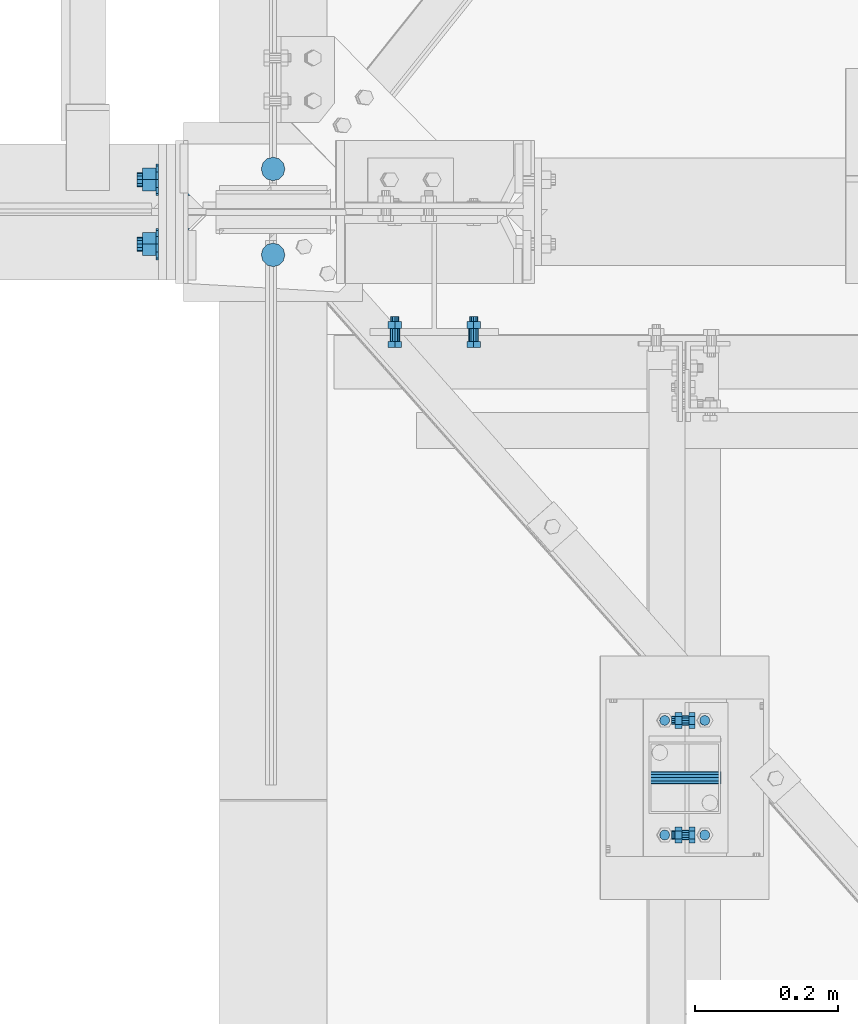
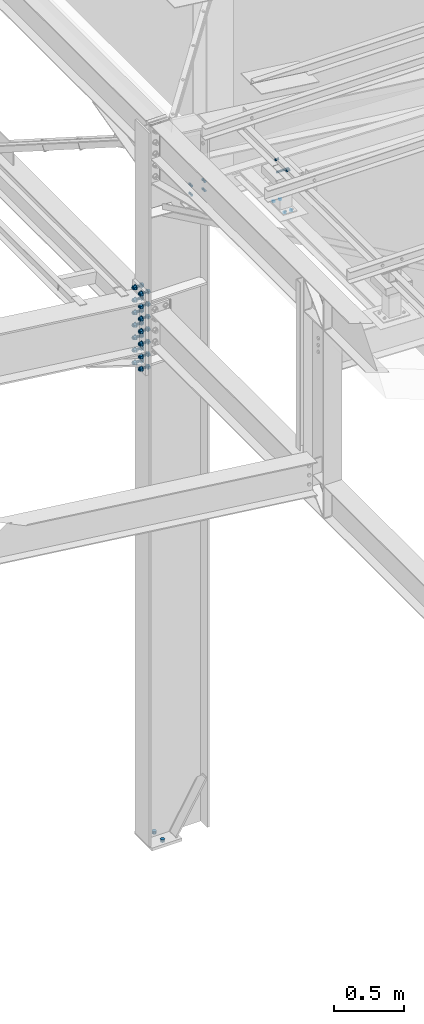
# One storey, part 356 of 3134: 6 mechanical fasteners, 5 elements without a shape of their own.
"""IFC2X3 building model written with IfcOpenShell, lengths in millimetres."""

from ifc_helpers import new_model, si_unit, frame, origin_with_axes, place, context, subcontext, project, spatial, faceted_brep, source, transform, mapped, material, type_object, element, aggregate, save


model = new_model("IFC2X3")

# Units and contexts
model_context = context("Model", 3, precision=1e-05, world=origin_with_axes())
body_context = subcontext(model_context, "Body", "Model", "MODEL_VIEW")
ifc_project = project(units=[si_unit("LENGTHUNIT", "METRE", prefix="MILLI"), si_unit("AREAUNIT", "SQUARE_METRE"), si_unit("VOLUMEUNIT", "CUBIC_METRE"), si_unit("MASSUNIT", "GRAM", prefix="KILO"), si_unit("TIMEUNIT", "SECOND"), si_unit("PLANEANGLEUNIT", "RADIAN"), si_unit("SOLIDANGLEUNIT", "STERADIAN"), si_unit("THERMODYNAMICTEMPERATUREUNIT", "DEGREE_CELSIUS"), si_unit("LUMINOUSINTENSITYUNIT", "LUMEN")], contexts=[model_context])

# Site, building, storey
site_placement = place(None, origin_with_axes())
site = spatial("IfcSite", under=ifc_project, at=site_placement, CompositionType="ELEMENT")
building_placement = place(site_placement, origin_with_axes())
building = spatial("IfcBuilding", under=site, at=building_placement, Name="Undefined", CompositionType="ELEMENT")
storey_placement = place(building_placement, origin_with_axes())
storey = spatial("IfcBuildingStorey", under=building, at=storey_placement, Name="Undefined", CompositionType="ELEMENT", Elevation=0.0)

# Assembly, mechanical fastener
assembly_1_placement = place(storey_placement, origin_with_axes())
assembly_1 = element("IfcElementAssembly", 1, at=assembly_1_placement, inside=storey, Name="IPE450", AssemblyPlace="NOTDEFINED", PredefinedType="RIGID_FRAME")
ifc_material_1 = material(Name="HR10.9")
mechanical_fastener_type = type_object("IfcMechanicalFastenerType", Name="Bolt assembly")
shared_shape_1 = source(origin_with_axes(), body_context, "Body", "Brep", [
    faceted_brep([(18.475208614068, -33.599999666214, 0.0), (9.23760430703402, -33.599999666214, 16.0), (-9.23760430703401, -33.599999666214, 16.0), (-18.475208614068, -33.599999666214, 2.2625605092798e-15), (-9.23760430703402, -33.599999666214, -16.0), (9.237604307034, -33.599999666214, -16.0), (9.237604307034, -19.7000000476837, -16.0), (-9.23760430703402, -19.7000000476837, -16.0), (-18.475208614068, -19.7000000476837, 2.2625605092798e-15), (-9.23760430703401, -19.7000000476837, 16.0), (9.23760430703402, -19.7000000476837, 16.0), (18.475208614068, -19.7000000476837, 0.0), (10.0, -19.7000000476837, 0.0), (8.66025403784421, -19.7000000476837, 5.0000000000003), (4.9999999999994, -19.7000000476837, 8.66025403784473), (-1.03633598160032e-12, -19.7000000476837, 10.0), (-5.00000000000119, -19.7000000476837, 8.6602540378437), (-8.66025403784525, -19.7000000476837, 4.99999999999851), (-10.0, -19.7000000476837, -2.07267196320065e-12), (-8.66025403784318, -19.7000000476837, -5.00000000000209), (-4.99999999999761, -19.7000000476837, -8.66025403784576), (3.09790571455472e-12, -19.7000000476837, -10.0), (5.00000000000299, -19.7000000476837, -8.66025403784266), (8.66025403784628, -19.7000000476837, -4.99999999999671), (8.66025403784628, 55.2999999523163, -4.99999999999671), (5.00000000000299, 55.2999999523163, -8.66025403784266), (3.09790571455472e-12, 55.2999999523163, -10.0), (-4.99999999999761, 55.2999999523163, -8.66025403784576), (-8.66025403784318, 55.2999999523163, -5.00000000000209), (-10.0, 55.2999999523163, -2.07267196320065e-12), (-8.66025403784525, 55.2999999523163, 4.99999999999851), (-5.00000000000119, 55.2999999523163, 8.6602540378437), (-1.03633598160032e-12, 55.2999999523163, 10.0), (4.9999999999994, 55.2999999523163, 8.66025403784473), (8.66025403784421, 55.2999999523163, 5.0000000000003), (10.0, 55.2999999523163, 0.0), (22.0, -19.7000000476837, 0.0), (19.0525588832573, -19.7000000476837, 11.0000000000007), (10.9999999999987, -19.7000000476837, 19.0525588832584), (-2.27993915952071e-12, -19.7000000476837, 22.0), (-11.0000000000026, -19.7000000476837, 19.0525588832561), (-19.0525588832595, -19.7000000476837, 10.9999999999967), (-22.0, -19.7000000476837, -4.55987831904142e-12), (-19.052558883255, -19.7000000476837, -11.0000000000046), (-10.9999999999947, -19.7000000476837, -19.0525588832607), (6.81539257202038e-12, -19.7000000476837, -22.0), (11.0000000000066, -19.7000000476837, -19.0525588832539), (19.0525588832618, -19.7000000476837, -10.9999999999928), (19.0525588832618, -16.0, -10.9999999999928), (11.0000000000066, -16.0, -19.0525588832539), (6.81539257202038e-12, -16.0, -22.0), (-10.9999999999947, -16.0, -19.0525588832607), (-19.052558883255, -16.0, -11.0000000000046), (-22.0, -16.0, -4.55987831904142e-12), (-19.0525588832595, -16.0, 10.9999999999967), (-11.0000000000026, -16.0, 19.0525588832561), (-2.27993915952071e-12, -16.0, 22.0), (10.9999999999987, -16.0, 19.0525588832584), (19.0525588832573, -16.0, 11.0000000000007), (22.0, -16.0, 0.0), (22.0, 25.0, 0.0), (19.0525588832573, 25.0, 11.0000000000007), (10.9999999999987, 25.0, 19.0525588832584), (-2.27993915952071e-12, 25.0, 22.0), (-11.0000000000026, 25.0, 19.0525588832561), (-19.0525588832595, 25.0, 10.9999999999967), (-22.0, 25.0, -4.55987831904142e-12), (-19.052558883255, 25.0, -11.0000000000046), (-10.9999999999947, 25.0, -19.0525588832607), (6.81539257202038e-12, 25.0, -22.0), (11.0000000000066, 25.0, -19.0525588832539), (19.0525588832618, 25.0, -10.9999999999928), (19.0525588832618, 28.7000000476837, -10.9999999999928), (11.0000000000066, 28.7000000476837, -19.0525588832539), (6.81539257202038e-12, 28.7000000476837, -22.0), (-10.9999999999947, 28.7000000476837, -19.0525588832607), (-19.052558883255, 28.7000000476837, -11.0000000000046), (-22.0, 28.7000000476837, -4.55987831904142e-12), (-19.0525588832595, 28.7000000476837, 10.9999999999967), (-11.0000000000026, 28.7000000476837, 19.0525588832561), (-2.27993915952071e-12, 28.7000000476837, 22.0), (10.9999999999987, 28.7000000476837, 19.0525588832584), (19.0525588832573, 28.7000000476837, 11.0000000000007), (22.0, 28.7000000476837, 0.0), (18.475208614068, 28.7000000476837, 0.0), (9.23760430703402, 28.7000000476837, 16.0), (-9.23760430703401, 28.7000000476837, 16.0), (-18.475208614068, 28.7000000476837, 2.2625605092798e-15), (-9.23760430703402, 28.7000000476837, -16.0), (9.237604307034, 28.7000000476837, -16.0), (9.237604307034, 47.2499992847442, -16.0), (-9.23760430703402, 47.2499992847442, -16.0), (-18.475208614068, 47.2499992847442, 2.2625605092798e-15), (-9.23760430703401, 47.2499992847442, 16.0), (9.23760430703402, 47.2499992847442, 16.0), (18.475208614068, 47.2499992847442, 0.0)], [[[0, 1, 2, 3, 4, 5]], [[6, 7, 8, 9, 10, 11]], [[0, 11, 10, 1]], [[1, 10, 9, 2]], [[2, 9, 8, 3]], [[3, 8, 7, 4]], [[4, 7, 6, 5]], [[5, 6, 11, 0]], [[12, 13, 14, 15, 16, 17, 18, 19, 20, 21, 22, 23]], [[24, 25, 26, 27, 28, 29, 30, 31, 32, 33, 34, 35]], [[12, 35, 34, 13]], [[13, 34, 33, 14]], [[14, 33, 32, 15]], [[15, 32, 31, 16]], [[16, 31, 30, 17]], [[17, 30, 29, 18]], [[18, 29, 28, 19]], [[19, 28, 27, 20]], [[20, 27, 26, 21]], [[21, 26, 25, 22]], [[22, 25, 24, 23]], [[23, 24, 35, 12]], [[36, 37, 38, 39, 40, 41, 42, 43, 44, 45, 46, 47]], [[48, 49, 50, 51, 52, 53, 54, 55, 56, 57, 58, 59]], [[36, 59, 58, 37]], [[37, 58, 57, 38]], [[38, 57, 56, 39]], [[39, 56, 55, 40]], [[40, 55, 54, 41]], [[41, 54, 53, 42]], [[42, 53, 52, 43]], [[43, 52, 51, 44]], [[44, 51, 50, 45]], [[45, 50, 49, 46]], [[46, 49, 48, 47]], [[47, 48, 59, 36]], [[60, 61, 62, 63, 64, 65, 66, 67, 68, 69, 70, 71]], [[72, 73, 74, 75, 76, 77, 78, 79, 80, 81, 82, 83]], [[60, 83, 82, 61]], [[61, 82, 81, 62]], [[62, 81, 80, 63]], [[63, 80, 79, 64]], [[64, 79, 78, 65]], [[65, 78, 77, 66]], [[66, 77, 76, 67]], [[67, 76, 75, 68]], [[68, 75, 74, 69]], [[69, 74, 73, 70]], [[70, 73, 72, 71]], [[71, 72, 83, 60]], [[84, 85, 86, 87, 88, 89]], [[90, 91, 92, 93, 94, 95]], [[84, 95, 94, 85]], [[85, 94, 93, 86]], [[86, 93, 92, 87]], [[87, 92, 91, 88]], [[88, 91, 90, 89]], [[89, 90, 95, 84]]]),
    faceted_brep([(11.0, -15.9, 0.0), (9.52627944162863, -15.9, 5.50000000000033), (5.49999999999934, -15.9, 9.5262794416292), (-1.13996957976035e-12, -15.9, 11.0), (-5.50000000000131, -15.9, 9.52627944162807), (-9.52627944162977, -15.9, 5.49999999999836), (-11.0, -15.9, -2.27993915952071e-12), (-9.5262794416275, -15.9, -5.5000000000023), (-5.49999999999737, -15.9, -9.52627944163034), (3.40769628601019e-12, -15.9, -11.0), (5.50000000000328, -15.9, -9.52627944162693), (9.52627944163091, -15.9, -5.49999999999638), (9.52627944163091, 0.0999999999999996, -5.49999999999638), (5.50000000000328, 0.0999999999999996, -9.52627944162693), (3.40769628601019e-12, 0.0999999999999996, -11.0), (-5.49999999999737, 0.0999999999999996, -9.52627944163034), (-9.5262794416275, 0.0999999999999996, -5.5000000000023), (-11.0, 0.0999999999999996, -2.27993915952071e-12), (-9.52627944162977, 0.0999999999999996, 5.49999999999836), (-5.50000000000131, 0.0999999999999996, 9.52627944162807), (-1.13996957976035e-12, 0.0999999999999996, 11.0), (5.49999999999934, 0.0999999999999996, 9.5262794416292), (9.52627944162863, 0.0999999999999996, 5.50000000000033), (11.0, 0.0999999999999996, 0.0), (11.0, -0.1, 0.0), (9.52627944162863, -0.1, 5.50000000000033), (5.49999999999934, -0.1, 9.5262794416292), (-1.13996957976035e-12, -0.1, 11.0), (-5.50000000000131, -0.1, 9.52627944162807), (-9.52627944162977, -0.1, 5.49999999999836), (-11.0, -0.1, -2.27993915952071e-12), (-9.5262794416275, -0.1, -5.5000000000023), (-5.49999999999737, -0.1, -9.52627944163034), (3.40769628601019e-12, -0.1, -11.0), (5.50000000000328, -0.1, -9.52627944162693), (9.52627944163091, -0.1, -5.49999999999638), (9.52627944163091, 25.0, -5.49999999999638), (5.50000000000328, 25.0, -9.52627944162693), (3.40769628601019e-12, 25.0, -11.0), (-5.49999999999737, 25.0, -9.52627944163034), (-9.5262794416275, 25.0, -5.5000000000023), (-11.0, 25.0, -2.27993915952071e-12), (-9.52627944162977, 25.0, 5.49999999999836), (-5.50000000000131, 25.0, 9.52627944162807), (-1.13996957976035e-12, 25.0, 11.0), (5.49999999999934, 25.0, 9.5262794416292), (9.52627944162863, 25.0, 5.50000000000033), (11.0, 25.0, 0.0)], [[[0, 1, 2, 3, 4, 5, 6, 7, 8, 9, 10, 11]], [[12, 13, 14, 15, 16, 17, 18, 19, 20, 21, 22, 23]], [[0, 23, 22, 1]], [[1, 22, 21, 2]], [[2, 21, 20, 3]], [[3, 20, 19, 4]], [[4, 19, 18, 5]], [[5, 18, 17, 6]], [[6, 17, 16, 7]], [[7, 16, 15, 8]], [[8, 15, 14, 9]], [[9, 14, 13, 10]], [[10, 13, 12, 11]], [[11, 12, 23, 0]], [[24, 25, 26, 27, 28, 29, 30, 31, 32, 33, 34, 35]], [[36, 37, 38, 39, 40, 41, 42, 43, 44, 45, 46, 47]], [[24, 47, 46, 25]], [[25, 46, 45, 26]], [[26, 45, 44, 27]], [[27, 44, 43, 28]], [[28, 43, 42, 29]], [[29, 42, 41, 30]], [[30, 41, 40, 31]], [[31, 40, 39, 32]], [[32, 39, 38, 33]], [[33, 38, 37, 34]], [[34, 37, 36, 35]], [[35, 36, 47, 24]]]),
])
mechanical_fastener_1_placement = place(assembly_1_placement, frame((67415.0, 19450.0, 4461.54211857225), z_axis=(0.0, 1.0, 0.0), x_axis=(0.0, 0.0, -1.0)))
mechanical_fastener_1 = element("IfcMechanicalFastener", 2, at=mechanical_fastener_1_placement, type_object=mechanical_fastener_type, material=ifc_material_1, Name="Bolt assembly", NominalDiameter=20.0, NominalLength=75.0, context=body_context, shape_type="MappedRepresentation", body=[
    mapped(shared_shape_1, transform((0.0, 0.0, -45.0))),
    mapped(shared_shape_1, transform((0.0, 0.0, 45.0))),
    mapped(shared_shape_1, transform((110.0, 0.0, -45.0))),
    mapped(shared_shape_1, transform((110.0, 0.0, 45.0))),
    mapped(shared_shape_1, transform((220.0, 0.0, -45.0))),
    mapped(shared_shape_1, transform((220.0, 0.0, 45.0))),
    mapped(shared_shape_1, transform((330.0, 0.0, -45.0))),
    mapped(shared_shape_1, transform((330.0, 0.0, 45.0))),
    mapped(shared_shape_1, transform((440.0, 0.0, -45.0))),
    mapped(shared_shape_1, transform((440.0, 0.0, 45.0))),
    mapped(shared_shape_1, transform((550.0, 0.0, -45.0))),
    mapped(shared_shape_1, transform((550.0, 0.0, 45.0))),
    mapped(shared_shape_1, transform((660.0, 0.0, -45.0))),
    mapped(shared_shape_1, transform((660.0, 0.0, 45.0))),
])
aggregate(assembly_1, [mechanical_fastener_1])

assembly_2_placement = place(storey_placement, origin_with_axes())
assembly_2 = element("IfcElementAssembly", 3, at=assembly_2_placement, inside=storey, AssemblyPlace="NOTDEFINED", PredefinedType="RIGID_FRAME")
ifc_material_2 = material(Name="8.8")
shared_shape_2 = source(origin_with_axes(), body_context, "Body", "Brep", [
    faceted_brep([(10.9696551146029, -14.0, 0.0), (5.48482755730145, -14.0, 9.5), (-5.48482755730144, -14.0, 9.5), (-10.9696551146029, -14.0, 1.34339530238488e-15), (-5.48482755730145, -14.0, -9.5), (5.48482755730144, -14.0, -9.50000000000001), (5.48482755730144, -6.0, -9.50000000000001), (-5.48482755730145, -6.0, -9.5), (-10.9696551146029, -6.0, 1.34339530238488e-15), (-5.48482755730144, -6.0, 9.5), (5.48482755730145, -6.0, 9.5), (10.9696551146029, -6.0, 0.0), (6.0, -6.0, 0.0), (5.19615242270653, -6.0, 3.00000000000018), (2.99999999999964, -6.0, 5.19615242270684), (-6.21801588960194e-13, -6.0, 6.0), (-3.00000000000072, -6.0, 5.19615242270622), (-5.19615242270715, -6.0, 2.9999999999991), (-6.0, -6.0, -1.24360317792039e-12), (-5.19615242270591, -6.0, -3.00000000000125), (-2.99999999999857, -6.0, -5.19615242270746), (1.85874342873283e-12, -6.0, -6.0), (3.00000000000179, -6.0, -5.1961524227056), (5.19615242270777, -6.0, -2.99999999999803), (5.19615242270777, 19.0, -2.99999999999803), (3.00000000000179, 19.0, -5.1961524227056), (1.85874342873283e-12, 19.0, -6.0), (-2.99999999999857, 19.0, -5.19615242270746), (-5.19615242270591, 19.0, -3.00000000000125), (-6.0, 19.0, -1.24360317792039e-12), (-5.19615242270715, 19.0, 2.9999999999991), (-3.00000000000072, 19.0, 5.19615242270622), (-6.21801588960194e-13, 19.0, 6.0), (2.99999999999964, 19.0, 5.19615242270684), (5.19615242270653, 19.0, 3.00000000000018), (6.0, 19.0, 0.0), (10.9696551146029, 4.00000000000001, 0.0), (5.48482755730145, 4.00000000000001, 9.5), (-5.48482755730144, 4.00000000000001, 9.5), (-10.9696551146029, 4.00000000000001, 1.34339530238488e-15), (-5.48482755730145, 4.00000000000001, -9.5), (5.48482755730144, 4.00000000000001, -9.50000000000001), (5.48482755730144, 14.0, -9.50000000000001), (-5.48482755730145, 14.0, -9.5), (-10.9696551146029, 14.0, 1.34339530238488e-15), (-5.48482755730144, 14.0, 9.5), (5.48482755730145, 14.0, 9.5), (10.9696551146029, 14.0, 0.0)], [[[0, 1, 2, 3, 4, 5]], [[6, 7, 8, 9, 10, 11]], [[0, 11, 10, 1]], [[1, 10, 9, 2]], [[2, 9, 8, 3]], [[3, 8, 7, 4]], [[4, 7, 6, 5]], [[5, 6, 11, 0]], [[12, 13, 14, 15, 16, 17, 18, 19, 20, 21, 22, 23]], [[24, 25, 26, 27, 28, 29, 30, 31, 32, 33, 34, 35]], [[12, 35, 34, 13]], [[13, 34, 33, 14]], [[14, 33, 32, 15]], [[15, 32, 31, 16]], [[16, 31, 30, 17]], [[17, 30, 29, 18]], [[18, 29, 28, 19]], [[19, 28, 27, 20]], [[20, 27, 26, 21]], [[21, 26, 25, 22]], [[22, 25, 24, 23]], [[23, 24, 35, 12]], [[36, 37, 38, 39, 40, 41]], [[42, 43, 44, 45, 46, 47]], [[36, 47, 46, 37]], [[37, 46, 45, 38]], [[38, 45, 44, 39]], [[39, 44, 43, 40]], [[40, 43, 42, 41]], [[41, 42, 47, 36]]]),
    faceted_brep([(7.0, -0.1, 0.0), (6.06217782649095, -0.1, 3.50000000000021), (3.49999999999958, -0.1, 6.06217782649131), (-7.25435187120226e-13, -0.1, 7.0), (-3.50000000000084, -0.1, 6.06217782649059), (-6.06217782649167, -0.1, 3.49999999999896), (-7.0, -0.1, -1.45087037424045e-12), (-6.06217782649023, -0.1, -3.50000000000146), (-3.49999999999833, -0.1, -6.06217782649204), (2.1685340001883e-12, -0.1, -7.0), (3.50000000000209, -0.1, -6.06217782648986), (6.0621778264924, -0.1, -3.4999999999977), (6.0621778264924, 4.00000000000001, -3.4999999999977), (3.50000000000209, 4.00000000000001, -6.06217782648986), (2.1685340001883e-12, 4.00000000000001, -7.0), (-3.49999999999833, 4.00000000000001, -6.06217782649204), (-6.06217782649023, 4.00000000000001, -3.50000000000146), (-7.0, 4.00000000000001, -1.45087037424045e-12), (-6.06217782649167, 4.00000000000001, 3.49999999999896), (-3.50000000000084, 4.00000000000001, 6.06217782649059), (-7.25435187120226e-13, 4.00000000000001, 7.0), (3.49999999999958, 4.00000000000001, 6.06217782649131), (6.06217782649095, 4.00000000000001, 3.50000000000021), (7.0, 4.00000000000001, 0.0), (7.0, -5.9, 0.0), (6.06217782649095, -5.9, 3.50000000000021), (3.49999999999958, -5.9, 6.06217782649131), (-7.25435187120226e-13, -5.9, 7.0), (-3.50000000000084, -5.9, 6.06217782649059), (-6.06217782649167, -5.9, 3.49999999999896), (-7.0, -5.9, -1.45087037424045e-12), (-6.06217782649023, -5.9, -3.50000000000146), (-3.49999999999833, -5.9, -6.06217782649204), (2.1685340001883e-12, -5.9, -7.0), (3.50000000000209, -5.9, -6.06217782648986), (6.0621778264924, -5.9, -3.4999999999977), (6.0621778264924, 0.0999999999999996, -3.4999999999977), (3.50000000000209, 0.0999999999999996, -6.06217782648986), (2.1685340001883e-12, 0.0999999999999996, -7.0), (-3.49999999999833, 0.0999999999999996, -6.06217782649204), (-6.06217782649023, 0.0999999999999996, -3.50000000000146), (-7.0, 0.0999999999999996, -1.45087037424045e-12), (-6.06217782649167, 0.0999999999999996, 3.49999999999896), (-3.50000000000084, 0.0999999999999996, 6.06217782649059), (-7.25435187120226e-13, 0.0999999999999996, 7.0), (3.49999999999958, 0.0999999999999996, 6.06217782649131), (6.06217782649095, 0.0999999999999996, 3.50000000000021), (7.0, 0.0999999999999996, 0.0)], [[[0, 1, 2, 3, 4, 5, 6, 7, 8, 9, 10, 11]], [[12, 13, 14, 15, 16, 17, 18, 19, 20, 21, 22, 23]], [[0, 23, 22, 1]], [[1, 22, 21, 2]], [[2, 21, 20, 3]], [[3, 20, 19, 4]], [[4, 19, 18, 5]], [[5, 18, 17, 6]], [[6, 17, 16, 7]], [[7, 16, 15, 8]], [[8, 15, 14, 9]], [[9, 14, 13, 10]], [[10, 13, 12, 11]], [[11, 12, 23, 0]], [[24, 25, 26, 27, 28, 29, 30, 31, 32, 33, 34, 35]], [[36, 37, 38, 39, 40, 41, 42, 43, 44, 45, 46, 47]], [[24, 47, 46, 25]], [[25, 46, 45, 26]], [[26, 45, 44, 27]], [[27, 44, 43, 28]], [[28, 43, 42, 29]], [[29, 42, 41, 30]], [[30, 41, 40, 31]], [[31, 40, 39, 32]], [[32, 39, 38, 33]], [[33, 38, 37, 34]], [[34, 37, 36, 35]], [[35, 36, 47, 24]]]),
])
mechanical_fastener_2_placement = place(assembly_2_placement, frame((68125.0, 18580.0, 5785.0), z_axis=(0.0, 0.0, 1.0), x_axis=(0.0, 1.0, 0.0)))
mechanical_fastener_2 = element("IfcMechanicalFastener", 4, at=mechanical_fastener_2_placement, type_object=mechanical_fastener_type, material=ifc_material_2, Name="Bolt assembly", NominalDiameter=12.0, NominalLength=25.0, context=body_context, shape_type="MappedRepresentation", body=[
    mapped(shared_shape_2, transform((0.0, 0.0, 0.0))),
    mapped(shared_shape_2, transform((160.0, 0.0, 0.0))),
])

assembly_3_placement = place(storey_placement, origin_with_axes())
assembly_3 = element("IfcElementAssembly", 5, at=assembly_3_placement, inside=storey, AssemblyPlace="NOTDEFINED", PredefinedType="RIGID_FRAME")
shared_shape_3 = source(origin_with_axes(), body_context, "Body", "Brep", [
    faceted_brep([(7.0, 13.0000253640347, 0.0), (6.06217782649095, 13.0000253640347, 3.50000000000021), (3.49999999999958, 13.0000253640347, 6.06217782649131), (-7.25435187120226e-13, 13.0000253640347, 7.0), (-3.50000000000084, 13.0000253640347, 6.06217782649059), (-6.06217782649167, 13.0000253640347, 3.49999999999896), (-7.0, 13.0000253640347, -1.45087037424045e-12), (-6.06217782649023, 13.0000253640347, -3.50000000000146), (-3.49999999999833, 13.0000253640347, -6.06217782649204), (2.1685340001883e-12, 13.0000253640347, -7.0), (3.50000000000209, 13.0000253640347, -6.06217782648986), (6.0621778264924, 13.0000253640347, -3.4999999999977), (6.0621778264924, 15.0999999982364, -3.4999999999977), (3.50000000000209, 15.0999999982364, -6.06217782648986), (2.1685340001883e-12, 15.0999999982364, -7.0), (-3.49999999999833, 15.0999999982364, -6.06217782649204), (-6.06217782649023, 15.0999999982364, -3.50000000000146), (-7.0, 15.0999999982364, -1.45087037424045e-12), (-6.06217782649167, 15.0999999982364, 3.49999999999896), (-3.50000000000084, 15.0999999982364, 6.06217782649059), (-7.25435187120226e-13, 15.0999999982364, 7.0), (3.49999999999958, 15.0999999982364, 6.06217782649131), (6.06217782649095, 15.0999999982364, 3.50000000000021), (7.0, 15.0999999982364, 0.0)], [[[0, 1, 2, 3, 4, 5, 6, 7, 8, 9, 10, 11]], [[12, 13, 14, 15, 16, 17, 18, 19, 20, 21, 22, 23]], [[0, 23, 22, 1]], [[1, 22, 21, 2]], [[2, 21, 20, 3]], [[3, 20, 19, 4]], [[4, 19, 18, 5]], [[5, 18, 17, 6]], [[6, 17, 16, 7]], [[7, 16, 15, 8]], [[8, 15, 14, 9]], [[9, 14, 13, 10]], [[10, 13, 12, 11]], [[11, 12, 23, 0]]]),
])
mechanical_fastener_3_placement = place(assembly_3_placement, frame((68096.3602034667, 18659.9983647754, 5410.04493090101), z_axis=(0.0, -1.0, 0.0), x_axis=(0.999519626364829, 0.0, -0.030992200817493)))
mechanical_fastener_3 = element("IfcMechanicalFastener", 6, at=mechanical_fastener_3_placement, type_object=mechanical_fastener_type, material=ifc_material_2, Name="Bolt assembly", NominalDiameter=12.0, NominalLength=2.0, context=body_context, shape_type="MappedRepresentation", body=[
    mapped(shared_shape_3, transform((0.0, -5.32963895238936e-10, -79.9999999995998))),
    mapped(shared_shape_3, transform((55.9999999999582, 4.54747350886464e-13, -80.0))),
    mapped(shared_shape_3, transform((0.0, 5.3114490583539e-10, 79.9999999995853))),
    mapped(shared_shape_3, transform((55.9999999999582, 4.54747350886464e-13, 80.0))),
])
aggregate(assembly_3, [mechanical_fastener_3])

# Mechanical fastener
shared_shape_4 = source(origin_with_axes(), body_context, "Body", "Brep", [
    faceted_brep([(9.0, -50.0, 0.0), (7.79422863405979, -50.0, 4.50000000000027), (4.49999999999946, -50.0, 7.79422863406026), (-9.3270238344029e-13, -50.0, 9.0), (-4.50000000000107, -50.0, 7.79422863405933), (-7.79422863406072, -50.0, 4.49999999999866), (-9.0, -50.0, -1.86540476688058e-12), (-7.79422863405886, -50.0, -4.50000000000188), (-4.49999999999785, -50.0, -7.79422863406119), (2.78811514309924e-12, -50.0, -9.0), (4.50000000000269, -50.0, -7.7942286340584), (7.79422863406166, -50.0, -4.49999999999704), (7.79422863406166, 50.1, -4.49999999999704), (4.50000000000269, 50.1, -7.7942286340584), (2.78811514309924e-12, 50.1, -9.0), (-4.49999999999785, 50.1, -7.79422863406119), (-7.79422863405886, 50.1, -4.50000000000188), (-9.0, 50.1, -1.86540476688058e-12), (-7.79422863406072, 50.1, 4.49999999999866), (-4.50000000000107, 50.1, 7.79422863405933), (-9.3270238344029e-13, 50.1, 9.0), (4.49999999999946, 50.1, 7.79422863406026), (7.79422863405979, 50.1, 4.50000000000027), (9.0, 50.1, 0.0)], [[[0, 1, 2, 3, 4, 5, 6, 7, 8, 9, 10, 11]], [[12, 13, 14, 15, 16, 17, 18, 19, 20, 21, 22, 23]], [[0, 23, 22, 1]], [[1, 22, 21, 2]], [[2, 21, 20, 3]], [[3, 20, 19, 4]], [[4, 19, 18, 5]], [[5, 18, 17, 6]], [[6, 17, 16, 7]], [[7, 16, 15, 8]], [[8, 15, 14, 9]], [[9, 14, 13, 10]], [[10, 13, 12, 11]], [[11, 12, 23, 0]]]),
])
mechanical_fastener_4_placement = place(assembly_2_placement, frame((68125.0, 18660.0, 5736.0), z_axis=(0.0, 1.0, 0.0), x_axis=(0.0, 0.0, 1.0)))
mechanical_fastener_4 = element("IfcMechanicalFastener", 7, at=mechanical_fastener_4_placement, type_object=mechanical_fastener_type, material=ifc_material_2, Name="Bolt assembly", NominalDiameter=16.0, NominalLength=100.0, context=body_context, shape_type="MappedRepresentation", body=[
    mapped(shared_shape_4, transform((0.0, 0.0, 0.0))),
])

aggregate(assembly_2, [mechanical_fastener_4, mechanical_fastener_2])

# Assembly, mechanical fastener
assembly_4_placement = place(storey_placement, origin_with_axes())
assembly_4 = element("IfcElementAssembly", 8, at=assembly_4_placement, inside=storey, Name="UPN200", AssemblyPlace="NOTDEFINED", PredefinedType="RIGID_FRAME")
shared_shape_5 = source(origin_with_axes(), body_context, "Body", "Brep", [
    faceted_brep([(10.9696551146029, -16.5, 0.0), (5.48482755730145, -16.5, 9.5), (-5.48482755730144, -16.5, 9.5), (-10.9696551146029, -16.5, 1.34339530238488e-15), (-5.48482755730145, -16.5, -9.5), (5.48482755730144, -16.5, -9.50000000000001), (5.48482755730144, -8.5, -9.50000000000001), (-5.48482755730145, -8.5, -9.5), (-10.9696551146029, -8.5, 1.34339530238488e-15), (-5.48482755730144, -8.5, 9.5), (5.48482755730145, -8.5, 9.5), (10.9696551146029, -8.5, 0.0), (6.0, -8.5, 0.0), (5.19615242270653, -8.5, 3.00000000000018), (2.99999999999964, -8.5, 5.19615242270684), (-6.21801588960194e-13, -8.5, 6.0), (-3.00000000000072, -8.5, 5.19615242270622), (-5.19615242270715, -8.5, 2.9999999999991), (-6.0, -8.5, -1.24360317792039e-12), (-5.19615242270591, -8.5, -3.00000000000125), (-2.99999999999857, -8.5, -5.19615242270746), (1.85874342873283e-12, -8.5, -6.0), (3.00000000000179, -8.5, -5.1961524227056), (5.19615242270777, -8.5, -2.99999999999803), (5.19615242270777, 26.5, -2.99999999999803), (3.00000000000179, 26.5, -5.1961524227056), (1.85874342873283e-12, 26.5, -6.0), (-2.99999999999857, 26.5, -5.19615242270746), (-5.19615242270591, 26.5, -3.00000000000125), (-6.0, 26.5, -1.24360317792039e-12), (-5.19615242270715, 26.5, 2.9999999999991), (-3.00000000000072, 26.5, 5.19615242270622), (-6.21801588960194e-13, 26.5, 6.0), (2.99999999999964, 26.5, 5.19615242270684), (5.19615242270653, 26.5, 3.00000000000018), (6.0, 26.5, 0.0), (10.9696551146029, 9.5, 0.0), (5.48482755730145, 9.5, 9.5), (-5.48482755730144, 9.5, 9.5), (-10.9696551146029, 9.5, 1.34339530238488e-15), (-5.48482755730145, 9.5, -9.5), (5.48482755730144, 9.5, -9.50000000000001), (5.48482755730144, 19.5, -9.50000000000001), (-5.48482755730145, 19.5, -9.5), (-10.9696551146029, 19.5, 1.34339530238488e-15), (-5.48482755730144, 19.5, 9.5), (5.48482755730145, 19.5, 9.5), (10.9696551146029, 19.5, 0.0)], [[[0, 1, 2, 3, 4, 5]], [[6, 7, 8, 9, 10, 11]], [[0, 11, 10, 1]], [[1, 10, 9, 2]], [[2, 9, 8, 3]], [[3, 8, 7, 4]], [[4, 7, 6, 5]], [[5, 6, 11, 0]], [[12, 13, 14, 15, 16, 17, 18, 19, 20, 21, 22, 23]], [[24, 25, 26, 27, 28, 29, 30, 31, 32, 33, 34, 35]], [[12, 35, 34, 13]], [[13, 34, 33, 14]], [[14, 33, 32, 15]], [[15, 32, 31, 16]], [[16, 31, 30, 17]], [[17, 30, 29, 18]], [[18, 29, 28, 19]], [[19, 28, 27, 20]], [[20, 27, 26, 21]], [[21, 26, 25, 22]], [[22, 25, 24, 23]], [[23, 24, 35, 12]], [[36, 37, 38, 39, 40, 41]], [[42, 43, 44, 45, 46, 47]], [[36, 47, 46, 37]], [[37, 46, 45, 38]], [[38, 45, 44, 39]], [[39, 44, 43, 40]], [[40, 43, 42, 41]], [[41, 42, 47, 36]]]),
    faceted_brep([(7.0, -0.1, 0.0), (6.06217782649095, -0.1, 3.50000000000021), (3.49999999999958, -0.1, 6.06217782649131), (-7.25435187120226e-13, -0.1, 7.0), (-3.50000000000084, -0.1, 6.06217782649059), (-6.06217782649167, -0.1, 3.49999999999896), (-7.0, -0.1, -1.45087037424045e-12), (-6.06217782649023, -0.1, -3.50000000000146), (-3.49999999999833, -0.1, -6.06217782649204), (2.1685340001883e-12, -0.1, -7.0), (3.50000000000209, -0.1, -6.06217782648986), (6.0621778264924, -0.1, -3.4999999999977), (6.0621778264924, 9.5, -3.4999999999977), (3.50000000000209, 9.5, -6.06217782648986), (2.1685340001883e-12, 9.5, -7.0), (-3.49999999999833, 9.5, -6.06217782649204), (-6.06217782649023, 9.5, -3.50000000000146), (-7.0, 9.5, -1.45087037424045e-12), (-6.06217782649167, 9.5, 3.49999999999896), (-3.50000000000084, 9.5, 6.06217782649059), (-7.25435187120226e-13, 9.5, 7.0), (3.49999999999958, 9.5, 6.06217782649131), (6.06217782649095, 9.5, 3.50000000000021), (7.0, 9.5, 0.0), (7.0, -8.4, 0.0), (6.06217782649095, -8.4, 3.50000000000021), (3.49999999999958, -8.4, 6.06217782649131), (-7.25435187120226e-13, -8.4, 7.0), (-3.50000000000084, -8.4, 6.06217782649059), (-6.06217782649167, -8.4, 3.49999999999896), (-7.0, -8.4, -1.45087037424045e-12), (-6.06217782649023, -8.4, -3.50000000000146), (-3.49999999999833, -8.4, -6.06217782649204), (2.1685340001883e-12, -8.4, -7.0), (3.50000000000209, -8.4, -6.06217782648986), (6.0621778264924, -8.4, -3.4999999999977), (6.0621778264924, 0.0999999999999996, -3.4999999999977), (3.50000000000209, 0.0999999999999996, -6.06217782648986), (2.1685340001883e-12, 0.0999999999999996, -7.0), (-3.49999999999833, 0.0999999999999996, -6.06217782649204), (-6.06217782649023, 0.0999999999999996, -3.50000000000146), (-7.0, 0.0999999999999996, -1.45087037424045e-12), (-6.06217782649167, 0.0999999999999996, 3.49999999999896), (-3.50000000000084, 0.0999999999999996, 6.06217782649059), (-7.25435187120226e-13, 0.0999999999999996, 7.0), (3.49999999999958, 0.0999999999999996, 6.06217782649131), (6.06217782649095, 0.0999999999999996, 3.50000000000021), (7.0, 0.0999999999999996, 0.0)], [[[0, 1, 2, 3, 4, 5, 6, 7, 8, 9, 10, 11]], [[12, 13, 14, 15, 16, 17, 18, 19, 20, 21, 22, 23]], [[0, 23, 22, 1]], [[1, 22, 21, 2]], [[2, 21, 20, 3]], [[3, 20, 19, 4]], [[4, 19, 18, 5]], [[5, 18, 17, 6]], [[6, 17, 16, 7]], [[7, 16, 15, 8]], [[8, 15, 14, 9]], [[9, 14, 13, 10]], [[10, 13, 12, 11]], [[11, 12, 23, 0]], [[24, 25, 26, 27, 28, 29, 30, 31, 32, 33, 34, 35]], [[36, 37, 38, 39, 40, 41, 42, 43, 44, 45, 46, 47]], [[24, 47, 46, 25]], [[25, 46, 45, 26]], [[26, 45, 44, 27]], [[27, 44, 43, 28]], [[28, 43, 42, 29]], [[29, 42, 41, 30]], [[30, 41, 40, 31]], [[31, 40, 39, 32]], [[32, 39, 38, 33]], [[33, 38, 37, 34]], [[34, 37, 36, 35]], [[35, 36, 47, 24]]]),
])
mechanical_fastener_5_placement = place(assembly_4_placement, frame((67775.0000002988, 19277.5, 5372.97696472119), z_axis=(1.0, 0.0, 0.0), x_axis=(0.0, 0.0, -1.0)))
mechanical_fastener_5 = element("IfcMechanicalFastener", 9, at=mechanical_fastener_5_placement, type_object=mechanical_fastener_type, material=ifc_material_2, Name="Bolt assembly", NominalDiameter=12.0, NominalLength=35.0, context=body_context, shape_type="MappedRepresentation", body=[
    mapped(shared_shape_5, transform((0.0, -2.31011654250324e-10, -55.0000000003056))),
    mapped(shared_shape_5, transform((80.0, 0.0, -55.0))),
    mapped(shared_shape_5, transform((0.0, 2.29192664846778e-10, 55.0000000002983))),
    mapped(shared_shape_5, transform((80.0, 0.0, 55.0))),
])
aggregate(assembly_4, [mechanical_fastener_5])

assembly_5_placement = place(storey_placement, origin_with_axes())
assembly_5 = element("IfcElementAssembly", 10, at=assembly_5_placement, inside=storey, Name="IPE500", AssemblyPlace="NOTDEFINED", PredefinedType="RIGID_FRAME")
shared_shape_6 = source(origin_with_axes(), body_context, "Body", "Brep", [
    faceted_brep([(16.5, -25.0, 0.0), (14.289419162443, -25.0, 8.25000000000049), (8.24999999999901, -25.0, 14.2894191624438), (-1.70995436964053e-12, -25.0, 16.5), (-8.25000000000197, -25.0, 14.2894191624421), (-14.2894191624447, -25.0, 8.24999999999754), (-16.5, -25.0, -3.41990873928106e-12), (-14.2894191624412, -25.0, -8.25000000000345), (-8.24999999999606, -25.0, -14.2894191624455), (5.11154442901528e-12, -25.0, -16.5), (8.25000000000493, -25.0, -14.2894191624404), (14.2894191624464, -25.0, -8.24999999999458), (14.2894191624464, 0.1, -8.24999999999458), (8.25000000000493, 0.1, -14.2894191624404), (5.11154442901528e-12, 0.1, -16.5), (-8.24999999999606, 0.1, -14.2894191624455), (-14.2894191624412, 0.1, -8.25000000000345), (-16.5, 0.1, -3.41990873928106e-12), (-14.2894191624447, 0.1, 8.24999999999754), (-8.25000000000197, 0.1, 14.2894191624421), (-1.70995436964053e-12, 0.1, 16.5), (8.24999999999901, 0.1, 14.2894191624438), (14.289419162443, 0.1, 8.25000000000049), (16.5, 0.1, 0.0)], [[[0, 1, 2, 3, 4, 5, 6, 7, 8, 9, 10, 11]], [[12, 13, 14, 15, 16, 17, 18, 19, 20, 21, 22, 23]], [[0, 23, 22, 1]], [[1, 22, 21, 2]], [[2, 21, 20, 3]], [[3, 20, 19, 4]], [[4, 19, 18, 5]], [[5, 18, 17, 6]], [[6, 17, 16, 7]], [[7, 16, 15, 8]], [[8, 15, 14, 9]], [[9, 14, 13, 10]], [[10, 13, 12, 11]], [[11, 12, 23, 0]]]),
])
mechanical_fastener_6_placement = place(assembly_5_placement, frame((68030.0, 19450.0000000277, -375.0), z_axis=(0.0, 1.0, 0.0), x_axis=(-1.0, 0.0, 0.0)))
mechanical_fastener_6 = element("IfcMechanicalFastener", 11, at=mechanical_fastener_6_placement, type_object=mechanical_fastener_type, material=ifc_material_2, Name="Bolt assembly", NominalDiameter=30.0, NominalLength=25.0, context=body_context, shape_type="MappedRepresentation", body=[
    mapped(shared_shape_6, transform((480.0, 0.0, -60.0))),
    mapped(shared_shape_6, transform((480.0, 0.0, 60.0))),
])
aggregate(assembly_5, [mechanical_fastener_6])

save(model, "model.ifc")
